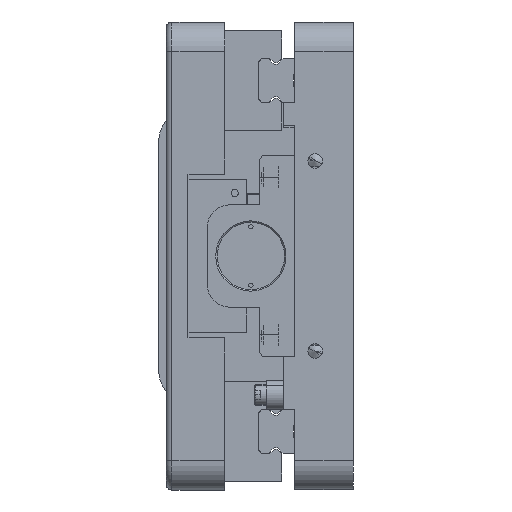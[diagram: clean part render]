
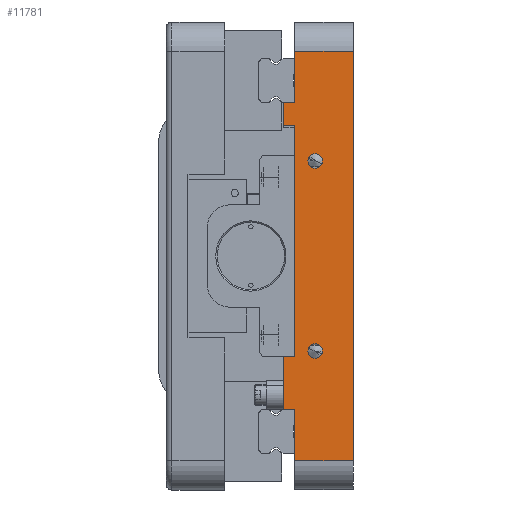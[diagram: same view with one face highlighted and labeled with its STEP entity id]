
A CAD part, left-side view. The second image highlights one B-rep face of the part: STEP entity #11781.
In plain terms, the highlighted planar face has unit normal (-1, 0, 0).
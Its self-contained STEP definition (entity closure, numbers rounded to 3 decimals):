
#128 = DIRECTION ( 'NONE',  ( 0., 0., 1. ) ) ;
#435 = EDGE_CURVE ( 'NONE', #16466, #48522, #11013, .T. ) ;
#644 = EDGE_CURVE ( 'NONE', #48522, #25946, #39989, .T. ) ;
#1125 = CARTESIAN_POINT ( 'NONE',  ( -371.5, 20., -34.5 ) ) ;
#1204 = ORIENTED_EDGE ( 'NONE', *, *, #435, .T. ) ;
#1716 = VECTOR ( 'NONE', #29991, 1000. ) ;
#3176 = EDGE_LOOP ( 'NONE', ( #3526, #44757, #14133, #41463, #13623, #43074, #41142, #46499, #38948, #34163, #6495, #1204 ) ) ;
#3526 = ORIENTED_EDGE ( 'NONE', *, *, #644, .T. ) ;
#4042 = EDGE_CURVE ( 'NONE', #25946, #44184, #14459, .T. ) ;
#4468 = CARTESIAN_POINT ( 'NONE',  ( -371.5, 20., -70. ) ) ;
#5163 = CARTESIAN_POINT ( 'NONE',  ( -371.5, 23.8, -80. ) ) ;
#5921 = FACE_BOUND ( 'NONE', #34511, .T. ) ;
#6149 = VECTOR ( 'NONE', #46687, 1000. ) ;
#6299 = VERTEX_POINT ( 'NONE', #24844 ) ;
#6335 = CARTESIAN_POINT ( 'NONE',  ( -371.5, 20., 70. ) ) ;
#6482 = VECTOR ( 'NONE', #27528, 1000. ) ;
#6495 = ORIENTED_EDGE ( 'NONE', *, *, #52950, .T. ) ;
#7517 = CARTESIAN_POINT ( 'NONE',  ( -371.5, 20., 52.5 ) ) ;
#7584 = DIRECTION ( 'NONE',  ( 0., 1., 0. ) ) ;
#8330 = EDGE_CURVE ( 'NONE', #39566, #46545, #32039, .T. ) ;
#8456 = EDGE_CURVE ( 'NONE', #37795, #46586, #11997, .T. ) ;
#9589 = VERTEX_POINT ( 'NONE', #28352 ) ;
#9632 = DIRECTION ( 'NONE',  ( 0., 0., 1. ) ) ;
#10470 = CARTESIAN_POINT ( 'NONE',  ( -371.5, 13., 30. ) ) ;
#10779 = CARTESIAN_POINT ( 'NONE',  ( -371.5, 13., -32.5 ) ) ;
#11013 = LINE ( 'NONE', #46369, #42613 ) ;
#11649 = CARTESIAN_POINT ( 'NONE',  ( -371.5, 13., -30. ) ) ;
#11658 = DIRECTION ( 'NONE',  ( -1., 0., 0. ) ) ;
#11691 = VECTOR ( 'NONE', #7584, 1000. ) ;
#11743 = FACE_BOUND ( 'NONE', #48672, .T. ) ;
#11781 = ADVANCED_FACE ( 'NONE', ( #5921, #11743, #39428 ), #33652, .F. ) ;
#11997 = LINE ( 'NONE', #5163, #1716 ) ;
#12188 = DIRECTION ( 'NONE',  ( 0., 1., 0. ) ) ;
#12449 = EDGE_CURVE ( 'NONE', #19290, #52919, #24560, .T. ) ;
#12543 = ORIENTED_EDGE ( 'NONE', *, *, #21397, .F. ) ;
#13623 = ORIENTED_EDGE ( 'NONE', *, *, #50878, .F. ) ;
#14133 = ORIENTED_EDGE ( 'NONE', *, *, #33984, .T. ) ;
#14153 = EDGE_CURVE ( 'NONE', #45708, #6299, #40481, .T. ) ;
#14459 = LINE ( 'NONE', #15236, #42820 ) ;
#14888 = VERTEX_POINT ( 'NONE', #7517 ) ;
#15236 = CARTESIAN_POINT ( 'NONE',  ( -371.5, 23.8, 70. ) ) ;
#15542 = AXIS2_PLACEMENT_3D ( 'NONE', #10779, #23603, #52534 ) ;
#15707 = DIRECTION ( 'NONE',  ( 0., 0., 1. ) ) ;
#15846 = EDGE_CURVE ( 'NONE', #19290, #27544, #20100, .T. ) ;
#16248 = AXIS2_PLACEMENT_3D ( 'NONE', #36713, #48763, #28404 ) ;
#16370 = EDGE_CURVE ( 'NONE', #46545, #39566, #40002, .T. ) ;
#16453 = EDGE_CURVE ( 'NONE', #52919, #46586, #43248, .T. ) ;
#16466 = VERTEX_POINT ( 'NONE', #4468 ) ;
#16744 = VECTOR ( 'NONE', #15707, 1000. ) ;
#16759 = VECTOR ( 'NONE', #12188, 1000. ) ;
#17063 = CARTESIAN_POINT ( 'NONE',  ( -371.5, 23.8, -52.5 ) ) ;
#19094 = CARTESIAN_POINT ( 'NONE',  ( -371.5, 20., 44.5 ) ) ;
#19183 = CARTESIAN_POINT ( 'NONE',  ( -371.5, 23.8, 44.5 ) ) ;
#19290 = VERTEX_POINT ( 'NONE', #36330 ) ;
#20100 = LINE ( 'NONE', #24728, #11691 ) ;
#21288 = VERTEX_POINT ( 'NONE', #43051 ) ;
#21397 = EDGE_CURVE ( 'NONE', #6299, #45708, #42148, .T. ) ;
#23161 = DIRECTION ( 'NONE',  ( 0., 1., 0. ) ) ;
#23566 = CARTESIAN_POINT ( 'NONE',  ( -371.5, 0., -70. ) ) ;
#23603 = DIRECTION ( 'NONE',  ( -1., 0., 0. ) ) ;
#23776 = CARTESIAN_POINT ( 'NONE',  ( -371.5, 13., 32.5 ) ) ;
#24560 = LINE ( 'NONE', #19094, #6482 ) ;
#24728 = CARTESIAN_POINT ( 'NONE',  ( -371.5, -110.209, 44.5 ) ) ;
#24844 = CARTESIAN_POINT ( 'NONE',  ( -371.5, 13., -35. ) ) ;
#25105 = VECTOR ( 'NONE', #9632, 1000. ) ;
#25451 = CARTESIAN_POINT ( 'NONE',  ( -371.5, 20., -80. ) ) ;
#25522 = CARTESIAN_POINT ( 'NONE',  ( -371.5, 0., 70. ) ) ;
#25565 = ORIENTED_EDGE ( 'NONE', *, *, #16370, .F. ) ;
#25946 = VERTEX_POINT ( 'NONE', #25522 ) ;
#26585 = CARTESIAN_POINT ( 'NONE',  ( -371.5, 23.8, -80. ) ) ;
#27528 = DIRECTION ( 'NONE',  ( 0., 0., -1. ) ) ;
#27544 = VERTEX_POINT ( 'NONE', #19183 ) ;
#27596 = LINE ( 'NONE', #43464, #44356 ) ;
#27647 = LINE ( 'NONE', #26585, #25105 ) ;
#28046 = LINE ( 'NONE', #46153, #6149 ) ;
#28352 = CARTESIAN_POINT ( 'NONE',  ( -371.5, 20., -52.5 ) ) ;
#28404 = DIRECTION ( 'NONE',  ( 0., 0., 1. ) ) ;
#29991 = DIRECTION ( 'NONE',  ( 0., 0., 1. ) ) ;
#31804 = VECTOR ( 'NONE', #49932, 1000. ) ;
#32039 = CIRCLE ( 'NONE', #38264, 2.5 ) ;
#32975 = ORIENTED_EDGE ( 'NONE', *, *, #8330, .F. ) ;
#33103 = CARTESIAN_POINT ( 'NONE',  ( -371.5, -110.209, -34.5 ) ) ;
#33652 = PLANE ( 'NONE',  #50364 ) ;
#33984 = EDGE_CURVE ( 'NONE', #44184, #14888, #28046, .T. ) ;
#34163 = ORIENTED_EDGE ( 'NONE', *, *, #46210, .F. ) ;
#34511 = EDGE_LOOP ( 'NONE', ( #37518, #12543 ) ) ;
#34579 = LINE ( 'NONE', #39730, #40375 ) ;
#36095 = CARTESIAN_POINT ( 'NONE',  ( -371.5, 0., -80. ) ) ;
#36330 = CARTESIAN_POINT ( 'NONE',  ( -371.5, 20., 44.5 ) ) ;
#36713 = CARTESIAN_POINT ( 'NONE',  ( -371.5, 13., -32.5 ) ) ;
#37302 = CARTESIAN_POINT ( 'NONE',  ( -371.5, 13., 35. ) ) ;
#37518 = ORIENTED_EDGE ( 'NONE', *, *, #14153, .F. ) ;
#37795 = VERTEX_POINT ( 'NONE', #17063 ) ;
#38153 = CARTESIAN_POINT ( 'NONE',  ( -371.5, 23.8, -80. ) ) ;
#38264 = AXIS2_PLACEMENT_3D ( 'NONE', #45870, #41739, #128 ) ;
#38290 = DIRECTION ( 'NONE',  ( 0., -1., 0. ) ) ;
#38948 = ORIENTED_EDGE ( 'NONE', *, *, #8456, .F. ) ;
#39428 = FACE_OUTER_BOUND ( 'NONE', #3176, .T. ) ;
#39566 = VERTEX_POINT ( 'NONE', #37302 ) ;
#39730 = CARTESIAN_POINT ( 'NONE',  ( -371.5, -743.509, -52.5 ) ) ;
#39989 = LINE ( 'NONE', #36095, #16744 ) ;
#40002 = CIRCLE ( 'NONE', #50164, 2.5 ) ;
#40375 = VECTOR ( 'NONE', #23161, 1000. ) ;
#40481 = CIRCLE ( 'NONE', #16248, 2.5 ) ;
#41142 = ORIENTED_EDGE ( 'NONE', *, *, #12449, .T. ) ;
#41463 = ORIENTED_EDGE ( 'NONE', *, *, #51654, .T. ) ;
#41739 = DIRECTION ( 'NONE',  ( -1., 0., 0. ) ) ;
#42148 = CIRCLE ( 'NONE', #15542, 2.5 ) ;
#42613 = VECTOR ( 'NONE', #38290, 1000. ) ;
#42820 = VECTOR ( 'NONE', #52150, 1000. ) ;
#42927 = CARTESIAN_POINT ( 'NONE',  ( -371.5, 23.8, -34.5 ) ) ;
#43051 = CARTESIAN_POINT ( 'NONE',  ( -371.5, 23.8, 52.5 ) ) ;
#43074 = ORIENTED_EDGE ( 'NONE', *, *, #15846, .F. ) ;
#43248 = LINE ( 'NONE', #33103, #16759 ) ;
#43464 = CARTESIAN_POINT ( 'NONE',  ( -371.5, -743.509, 52.5 ) ) ;
#44184 = VERTEX_POINT ( 'NONE', #6335 ) ;
#44356 = VECTOR ( 'NONE', #52407, 1000. ) ;
#44757 = ORIENTED_EDGE ( 'NONE', *, *, #4042, .T. ) ;
#45708 = VERTEX_POINT ( 'NONE', #11649 ) ;
#45870 = CARTESIAN_POINT ( 'NONE',  ( -371.5, 13., 32.5 ) ) ;
#45892 = DIRECTION ( 'NONE',  ( 1., 0., 0. ) ) ;
#46153 = CARTESIAN_POINT ( 'NONE',  ( -371.5, 20., 80. ) ) ;
#46210 = EDGE_CURVE ( 'NONE', #9589, #37795, #34579, .T. ) ;
#46369 = CARTESIAN_POINT ( 'NONE',  ( -371.5, 23.8, -70. ) ) ;
#46499 = ORIENTED_EDGE ( 'NONE', *, *, #16453, .T. ) ;
#46545 = VERTEX_POINT ( 'NONE', #10470 ) ;
#46586 = VERTEX_POINT ( 'NONE', #42927 ) ;
#46687 = DIRECTION ( 'NONE',  ( 0., 0., -1. ) ) ;
#48522 = VERTEX_POINT ( 'NONE', #23566 ) ;
#48672 = EDGE_LOOP ( 'NONE', ( #32975, #25565 ) ) ;
#48763 = DIRECTION ( 'NONE',  ( -1., 0., 0. ) ) ;
#49932 = DIRECTION ( 'NONE',  ( 0., 0., -1. ) ) ;
#50023 = DIRECTION ( 'NONE',  ( 0., 0., -1. ) ) ;
#50164 = AXIS2_PLACEMENT_3D ( 'NONE', #23776, #11658, #52531 ) ;
#50364 = AXIS2_PLACEMENT_3D ( 'NONE', #38153, #45892, #50023 ) ;
#50878 = EDGE_CURVE ( 'NONE', #27544, #21288, #27647, .T. ) ;
#51654 = EDGE_CURVE ( 'NONE', #14888, #21288, #27596, .T. ) ;
#52150 = DIRECTION ( 'NONE',  ( 0., 1., 0. ) ) ;
#52403 = LINE ( 'NONE', #25451, #31804 ) ;
#52407 = DIRECTION ( 'NONE',  ( 0., 1., 0. ) ) ;
#52531 = DIRECTION ( 'NONE',  ( 0., 0., 1. ) ) ;
#52534 = DIRECTION ( 'NONE',  ( 0., 0., 1. ) ) ;
#52919 = VERTEX_POINT ( 'NONE', #1125 ) ;
#52950 = EDGE_CURVE ( 'NONE', #9589, #16466, #52403, .T. ) ;
